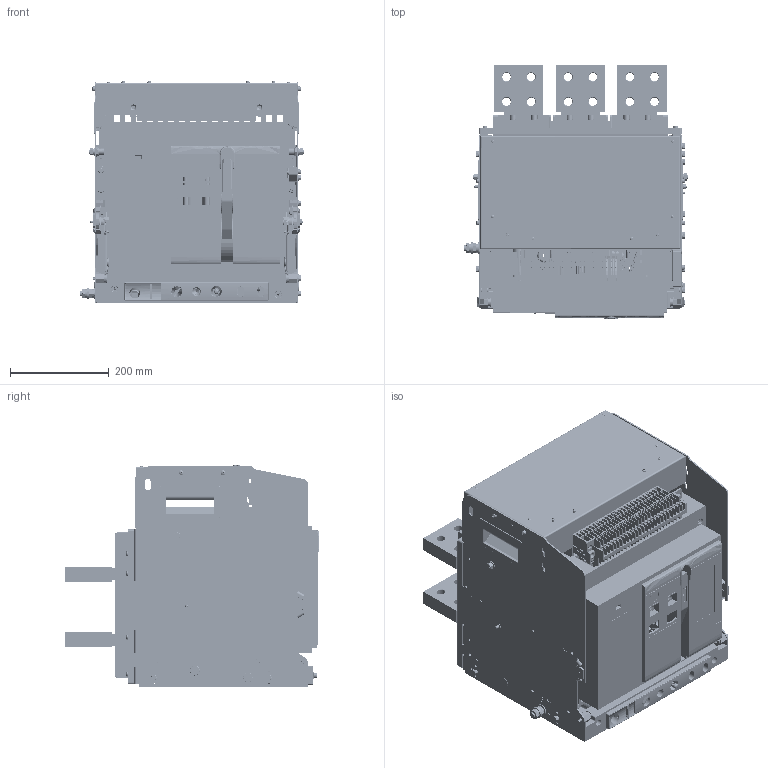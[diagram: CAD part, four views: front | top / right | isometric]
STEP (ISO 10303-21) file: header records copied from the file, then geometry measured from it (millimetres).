
FILE_DESCRIPTION((''),'2;1');
FILE_NAME('TENGEN_TGW1N-4000_3P_2900A-3200_ASM','2026-06-03T09:56:33',('chenjun'),(''),'CREO PARAMETRIC BY PTC INC, 2020354','CREO PARAMETRIC BY PTC INC, 2020354','');
FILE_SCHEMA(('CONFIG_CONTROL_DESIGN'));
Products named in the file (34): 8TZD_020_1016_1_1_1; GB_T809-M6X12-A_1_1_1; 5TZD_020_1043_ASM_1_ASM_1_ASM_1_ASM; 8TZD_001_1005_1_1_1; 8TZD_311_1031_1_1_1; 5TZD_260_1003_AF0_ASM_1_ASM_1_A_ASM; 8TZD_580_1088_1_1_1; 5TZD_260_1003_AF1_ASM_1_ASM_1_A_ASM; GB_T819_1-M6X16_1_1_1; GB_T97_1_8_1_1_1; GB_T93-8_1_1_1; GB_T70_1-M8X25_1_1_1; 5TZD_020_1044_AF0_ASM_1_ASM_1_A_ASM; GB_T97_1_6_1_1_1; GB_T93-6_1_1_1; GB_T70_1-M6X20_1_1_1; 6TZD_229_6011_AF0_ASM_1_ASM_1_A_ASM; 5TZD_558_1012_1_1_1; ASM0002_ASM_1_1_1; 111111111_1_1_1; 2TZD_257_6012_ASM_1_ASM_1_ASM_1_ASM; CTZ_1_1_2_1_1; CTZ_1_1_2_2_1; CTZ_1_1_2_3_1; CTZ_1_1_2_ASM_1_ASM; MZ_1_1; FHZ_1_1; 2TZD_257_6012_ASM_ASM_1_ASM_1_ASM; TENGEN_TGW1N-4000_3P_2500A-3200_ASM; 1MUPAI; 2MUPAI; PRT0005; PRT0006; TENGEN_TGW1N-4000_3P_2900A-3200_ASM
Assembly tree (178 placements, depth 8):
  TENGEN_TGW1N-4000_3P_2900A-3200_ASM
    TENGEN_TGW1N-4000_3P_2500A-3200_ASM
      2TZD_257_6012_ASM_ASM_1_ASM_1_ASM
        2TZD_257_6012_ASM_1_ASM_1_ASM_1_ASM
          6TZD_229_6011_AF0_ASM_1_ASM_1_A_ASM
            5TZD_020_1044_AF0_ASM_1_ASM_1_A_ASM
              5TZD_020_1043_ASM_1_ASM_1_ASM_1_ASM
                8TZD_020_1016_1_1_1
                GB_T809-M6X12-A_1_1_1  x24
              5TZD_260_1003_AF0_ASM_1_ASM_1_A_ASM
                8TZD_001_1005_1_1_1
                8TZD_311_1031_1_1_1
              8TZD_580_1088_1_1_1  x6
              5TZD_260_1003_AF1_ASM_1_ASM_1_A_ASM
                8TZD_001_1005_1_1_1
                8TZD_311_1031_1_1_1
              GB_T819_1-M6X16_1_1_1  x24
              GB_T97_1_8_1_1_1  x24
              GB_T93-8_1_1_1  x24
              GB_T70_1-M8X25_1_1_1  x24
            GB_T97_1_6_1_1_1  x8
            GB_T93-6_1_1_1  x8
            GB_T70_1-M6X20_1_1_1  x8
          5TZD_558_1012_1_1_1
          ASM0002_ASM_1_1_1
          111111111_1_1_1
        CTZ_1_1_2_ASM_1_ASM
          CTZ_1_1_2_1_1
          CTZ_1_1_2_2_1
          CTZ_1_1_2_3_1
        MZ_1_1
        FHZ_1_1
    1MUPAI  x2
    2MUPAI  x2
    PRT0005
    PRT0006
Bounding box: 452.15 x 516.3 x 451.5 mm (x, y, z)
Volume: 9801107.4 mm3; surface area: 4383343.7 mm2
Topology: 166 solids, 392 shells, 18612 faces, 51453 edges, 33485 vertices
Faces by surface type: plane 10418, cylinder 5557, cone 1422, bspline 573, torus 537, sphere 87, extrusion 18
Entity records: 571819 total; most frequent: CARTESIAN_POINT 171193, ORIENTED_EDGE 85651, DIRECTION 81245, EDGE_CURVE 42996, VERTEX_POINT 28057, VECTOR 27637, LINE 27619, AXIS2_PLACEMENT_3D 26804
